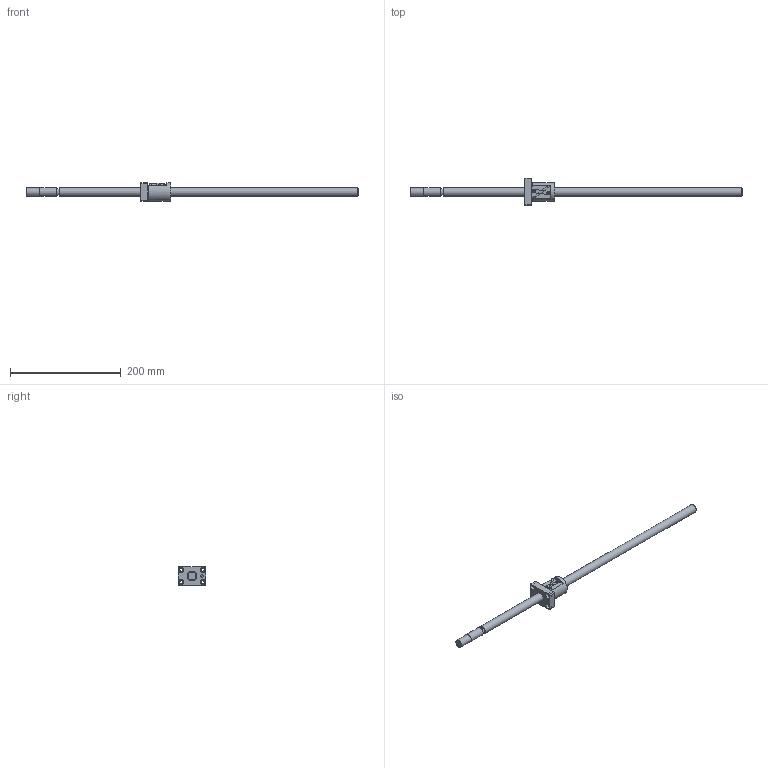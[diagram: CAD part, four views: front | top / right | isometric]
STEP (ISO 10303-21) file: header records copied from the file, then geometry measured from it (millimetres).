
FILE_DESCRIPTION (( 'STEP AP214' ), '1' );
FILE_NAME ('KBS(C)1515-600.STEP', '2021-07-05T02:14:19', ( '' ), ( '' ), 'SwSTEP 2.0', 'SolidWorks 2019', '' );
FILE_SCHEMA (( 'AUTOMOTIVE_DESIGN' ));
Length unit declared in the file: millimetre
Products named in the file (3): KBS1515-600; KBS1515; KBS(C)1515-600
Assembly tree (2 placements, depth 2):
  KBS(C)1515-600
    KBS1515-600
    KBS1515
Bounding box: 600 x 50 x 34 mm (x, y, z)
Volume: 148898.8 mm3; surface area: 42337.8 mm2
Topology: 2 solids, 2 shells, 103 faces, 259 edges, 171 vertices
Faces by surface type: plane 55, cylinder 40, cone 4, torus 4
Full cylindrical faces by diameter (mm): 3.2 x1, 5 x1, 5.5 x4, 5.6 x2, 9.5 x4, 12.5 x1, 14.5 x1, 15 x3, 17 x2, 34 x1
Entity records: 3297 total; most frequent: CARTESIAN_POINT 862, DIRECTION 464, ORIENTED_EDGE 448, EDGE_CURVE 224, AXIS2_PLACEMENT_3D 176, VERTEX_POINT 164, EDGE_LOOP 158, FACE_OUTER_BOUND 127
